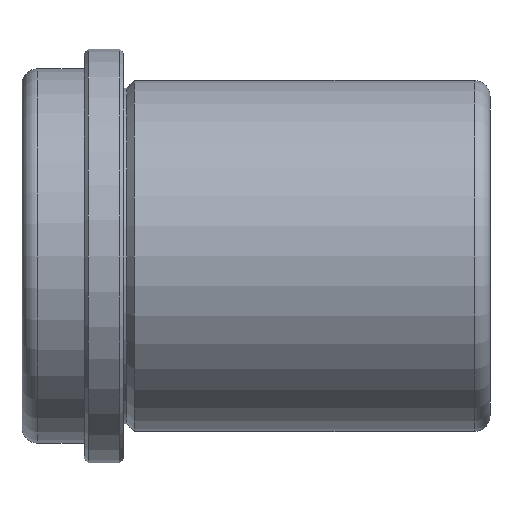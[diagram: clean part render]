
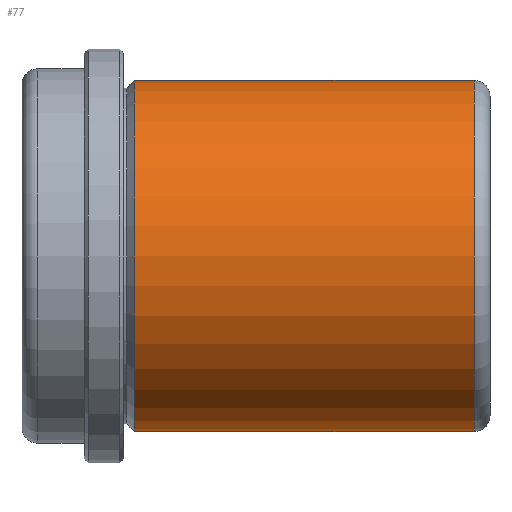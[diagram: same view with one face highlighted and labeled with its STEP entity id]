
A CAD part, front view. The second image highlights one B-rep face of the part: STEP entity #77.
In plain terms, the highlighted cylindrical face has radius 22.5 mm (diameter 45 mm), a full revolution.
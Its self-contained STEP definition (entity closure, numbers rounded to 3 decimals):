
#77 = ADVANCED_FACE( '', ( #167, #168, #169 ), #170, .T. );
#167 = FACE_OUTER_BOUND( '', #252, .T. );
#168 = FACE_BOUND( '', #253, .T. );
#169 = FACE_OUTER_BOUND( '', #254, .T. );
#170 = CYLINDRICAL_SURFACE( '', #255, 22.5 );
#252 = EDGE_LOOP( '', ( #365 ) );
#253 = EDGE_LOOP( '', ( #366 ) );
#254 = EDGE_LOOP( '', ( #367 ) );
#255 = AXIS2_PLACEMENT_3D( '', #368, #369, #370 );
#365 = ORIENTED_EDGE( '', *, *, #408, .T. );
#366 = ORIENTED_EDGE( '', *, *, #406, .T. );
#367 = ORIENTED_EDGE( '', *, *, #410, .F. );
#368 = CARTESIAN_POINT( '', ( 47., 0., 0. ) );
#369 = DIRECTION( '', ( -1., 0., 0. ) );
#370 = DIRECTION( '', ( 0., 0., -1. ) );
#406 = EDGE_CURVE( '', #462, #462, #463, .T. );
#408 = EDGE_CURVE( '', #465, #465, #466, .T. );
#410 = EDGE_CURVE( '', #468, #468, #469, .T. );
#462 = VERTEX_POINT( '', #580 );
#463 = B_SPLINE_CURVE_WITH_KNOTS( '', 3, ( #581, #582, #583, #584, #585, #586, #587, #588, #589, #590, #591, #592, #593, #594, #595, #596, #597, #598, #599, #600, #601, #602, #603, #604, #605, #606, #607, #608, #609, #610, #611, #612, #613, #614, #615, #616, #617, #618, #619, #620, #621, #622, #623, #624, #625, #626, #627, #628, #629, #630, #631, #632, #633, #634, #635, #636, #637, #638, #639, #640, #641, #642, #643, #644 ), .UNSPECIFIED., .T., .F., ( 2, 2, 2, 2, 2, 2, 2, 2, 2, 2, 2, 2, 2, 2, 2, 2, 2, 2, 2, 2, 2, 2, 2, 2, 2, 2, 2, 2, 2, 2, 2, 2, 2, 2 ), ( -0.001, 0., 0., 0.001, 0.001, 0.002, 0.002, 0.003, 0.003, 0.004, 0.004, 0.005, 0.005, 0.006, 0.006, 0.007, 0.007, 0.008, 0.008, 0.009, 0.009, 0.01, 0.01, 0.011, 0.011, 0.012, 0.012, 0.013, 0.013, 0.014, 0.014, 0.015, 0.016, 0.016 ), .UNSPECIFIED. );
#465 = VERTEX_POINT( '', #646 );
#466 = CIRCLE( '', #647, 22.5 );
#468 = VERTEX_POINT( '', #649 );
#469 = CIRCLE( '', #650, 22.5 );
#580 = CARTESIAN_POINT( '', ( 16., 22.361, -2.5 ) );
#581 = CARTESIAN_POINT( '', ( 15.669, 22.361, -2.5 ) );
#582 = CARTESIAN_POINT( '', ( 16.165, 22.361, -2.5 ) );
#583 = CARTESIAN_POINT( '', ( 16.328, 22.363, -2.484 ) );
#584 = CARTESIAN_POINT( '', ( 16.647, 22.369, -2.42 ) );
#585 = CARTESIAN_POINT( '', ( 16.806, 22.375, -2.372 ) );
#586 = CARTESIAN_POINT( '', ( 17.109, 22.388, -2.247 ) );
#587 = CARTESIAN_POINT( '', ( 17.253, 22.395, -2.17 ) );
#588 = CARTESIAN_POINT( '', ( 17.524, 22.412, -1.988 ) );
#589 = CARTESIAN_POINT( '', ( 17.653, 22.421, -1.883 ) );
#590 = CARTESIAN_POINT( '', ( 17.883, 22.44, -1.652 ) );
#591 = CARTESIAN_POINT( '', ( 17.987, 22.449, -1.527 ) );
#592 = CARTESIAN_POINT( '', ( 18.169, 22.465, -1.253 ) );
#593 = CARTESIAN_POINT( '', ( 18.247, 22.473, -1.108 ) );
#594 = CARTESIAN_POINT( '', ( 18.372, 22.486, -0.807 ) );
#595 = CARTESIAN_POINT( '', ( 18.42, 22.491, -0.65 ) );
#596 = CARTESIAN_POINT( '', ( 18.484, 22.498, -0.327 ) );
#597 = CARTESIAN_POINT( '', ( 18.5, 22.5, -0.165 ) );
#598 = CARTESIAN_POINT( '', ( 18.5, 22.5, 0.162 ) );
#599 = CARTESIAN_POINT( '', ( 18.484, 22.498, 0.328 ) );
#600 = CARTESIAN_POINT( '', ( 18.42, 22.491, 0.648 ) );
#601 = CARTESIAN_POINT( '', ( 18.373, 22.486, 0.804 ) );
#602 = CARTESIAN_POINT( '', ( 18.248, 22.473, 1.107 ) );
#603 = CARTESIAN_POINT( '', ( 18.169, 22.465, 1.253 ) );
#604 = CARTESIAN_POINT( '', ( 17.988, 22.449, 1.524 ) );
#605 = CARTESIAN_POINT( '', ( 17.885, 22.44, 1.65 ) );
#606 = CARTESIAN_POINT( '', ( 17.652, 22.421, 1.884 ) );
#607 = CARTESIAN_POINT( '', ( 17.526, 22.412, 1.987 ) );
#608 = CARTESIAN_POINT( '', ( 17.255, 22.395, 2.168 ) );
#609 = CARTESIAN_POINT( '', ( 17.109, 22.388, 2.247 ) );
#610 = CARTESIAN_POINT( '', ( 16.806, 22.375, 2.372 ) );
#611 = CARTESIAN_POINT( '', ( 16.65, 22.37, 2.419 ) );
#612 = CARTESIAN_POINT( '', ( 16.33, 22.363, 2.484 ) );
#613 = CARTESIAN_POINT( '', ( 16.164, 22.361, 2.5 ) );
#614 = CARTESIAN_POINT( '', ( 15.838, 22.361, 2.5 ) );
#615 = CARTESIAN_POINT( '', ( 15.675, 22.362, 2.484 ) );
#616 = CARTESIAN_POINT( '', ( 15.353, 22.369, 2.42 ) );
#617 = CARTESIAN_POINT( '', ( 15.195, 22.375, 2.372 ) );
#618 = CARTESIAN_POINT( '', ( 14.894, 22.388, 2.248 ) );
#619 = CARTESIAN_POINT( '', ( 14.748, 22.395, 2.17 ) );
#620 = CARTESIAN_POINT( '', ( 14.475, 22.412, 1.988 ) );
#621 = CARTESIAN_POINT( '', ( 14.349, 22.421, 1.885 ) );
#622 = CARTESIAN_POINT( '', ( 14.119, 22.439, 1.654 ) );
#623 = CARTESIAN_POINT( '', ( 14.013, 22.449, 1.526 ) );
#624 = CARTESIAN_POINT( '', ( 13.831, 22.465, 1.254 ) );
#625 = CARTESIAN_POINT( '', ( 13.754, 22.473, 1.111 ) );
#626 = CARTESIAN_POINT( '', ( 13.629, 22.486, 0.808 ) );
#627 = CARTESIAN_POINT( '', ( 13.58, 22.491, 0.65 ) );
#628 = CARTESIAN_POINT( '', ( 13.517, 22.498, 0.33 ) );
#629 = CARTESIAN_POINT( '', ( 13.5, 22.5, 0.168 ) );
#630 = CARTESIAN_POINT( '', ( 13.5, 22.5, -0.163 ) );
#631 = CARTESIAN_POINT( '', ( 13.516, 22.498, -0.326 ) );
#632 = CARTESIAN_POINT( '', ( 13.579, 22.491, -0.645 ) );
#633 = CARTESIAN_POINT( '', ( 13.627, 22.486, -0.804 ) );
#634 = CARTESIAN_POINT( '', ( 13.752, 22.473, -1.107 ) );
#635 = CARTESIAN_POINT( '', ( 13.829, 22.466, -1.251 ) );
#636 = CARTESIAN_POINT( '', ( 14.01, 22.449, -1.522 ) );
#637 = CARTESIAN_POINT( '', ( 14.116, 22.44, -1.651 ) );
#638 = CARTESIAN_POINT( '', ( 14.346, 22.421, -1.882 ) );
#639 = CARTESIAN_POINT( '', ( 14.472, 22.412, -1.985 ) );
#640 = CARTESIAN_POINT( '', ( 14.745, 22.395, -2.168 ) );
#641 = CARTESIAN_POINT( '', ( 14.89, 22.388, -2.246 ) );
#642 = CARTESIAN_POINT( '', ( 15.341, 22.368, -2.433 ) );
#643 = CARTESIAN_POINT( '', ( 15.669, 22.361, -2.5 ) );
#644 = CARTESIAN_POINT( '', ( 16.165, 22.361, -2.5 ) );
#646 = CARTESIAN_POINT( '', ( 1.414, 0., -22.5 ) );
#647 = AXIS2_PLACEMENT_3D( '', #704, #705, #706 );
#649 = CARTESIAN_POINT( '', ( 45., 0., -22.5 ) );
#650 = AXIS2_PLACEMENT_3D( '', #707, #708, #709 );
#704 = CARTESIAN_POINT( '', ( 1.414, 0., 0. ) );
#705 = DIRECTION( '', ( 1., 0., 0. ) );
#706 = DIRECTION( '', ( 0., 0., -1. ) );
#707 = CARTESIAN_POINT( '', ( 45., 0., 0. ) );
#708 = DIRECTION( '', ( 1., 0., 0. ) );
#709 = DIRECTION( '', ( 0., 0., -1. ) );
